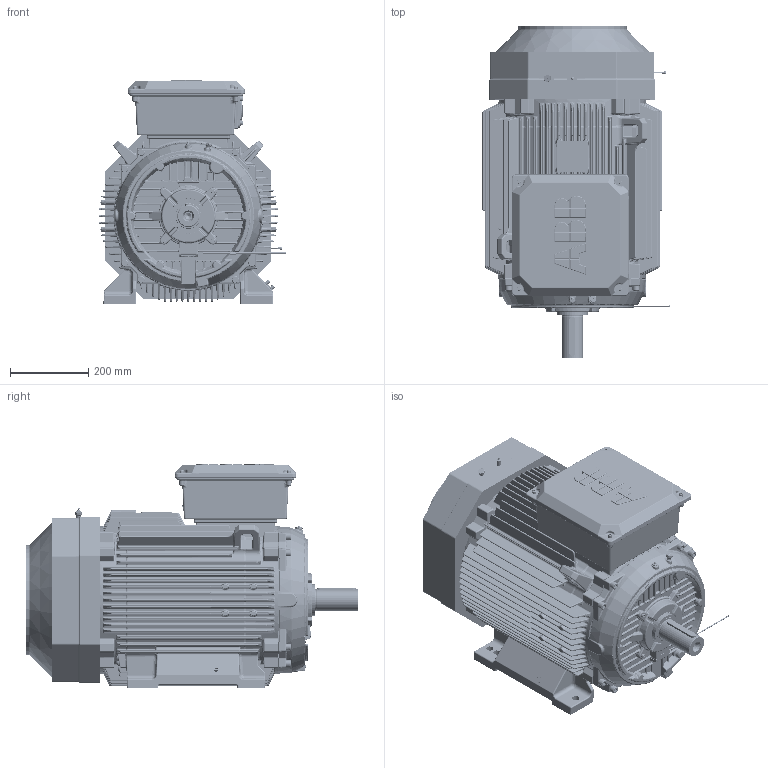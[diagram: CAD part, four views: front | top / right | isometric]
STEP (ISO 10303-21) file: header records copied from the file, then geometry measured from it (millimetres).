
FILE_DESCRIPTION(/* description */ (''),/* implementation_level */ '2;1');
FILE_NAME(/* name */ '3GZF500022-760_STEP.stp',/* time_stamp */ '2018-10-22T14:24:08+02:00',/* author */ (''),/* organization */ (''),/* preprocessor_version */ 'ST-DEVELOPER v16',/* originating_system */ 'SIEMENS PLM Software NX 10.0',/* authorisation */ '');
FILE_SCHEMA (('AUTOMOTIVE_DESIGN { 1 0 10303 214 3 1 1 1 }'));
Products named in the file (1): sepr05A8AB29zs5k
Bounding box: 478.74 x 849 x 572.72 mm (x, y, z)
Volume: 103639726.3 mm3; surface area: 3435555.4 mm2
Topology: 1 solids, 31 shells, 8645 faces, 20886 edges, 11663 vertices
Faces by surface type: bspline 3880, cylinder 2301, plane 1575, sphere 443, cone 362, torus 82, extrusion 2
Full cylindrical faces by diameter (mm): 3 x2, 3.3 x1, 4 x1, 5 x2, 5.3 x2, 5.4 x1, 6 x13, 6.4 x4, 7 x7, 8 x3, 10 x11, 11 x2, 11.922 x4, 12 x12, 13 x4, 13.5 x8, 16 x3, 17 x4, 18 x8, 18.5 x6, 21 x1, 24 x2, 54.4 x1, 55 x1, 63 x2, 68 x2, 79.5 x1, 280 x2, 356.707 x1
Entity records: 326728 total; most frequent: CARTESIAN_POINT 155997, ORIENTED_EDGE 39752, DIRECTION 27238, EDGE_CURVE 19876, VERTEX_POINT 11586, AXIS2_PLACEMENT_3D 10891, EDGE_LOOP 9008, ADVANCED_FACE 8641
